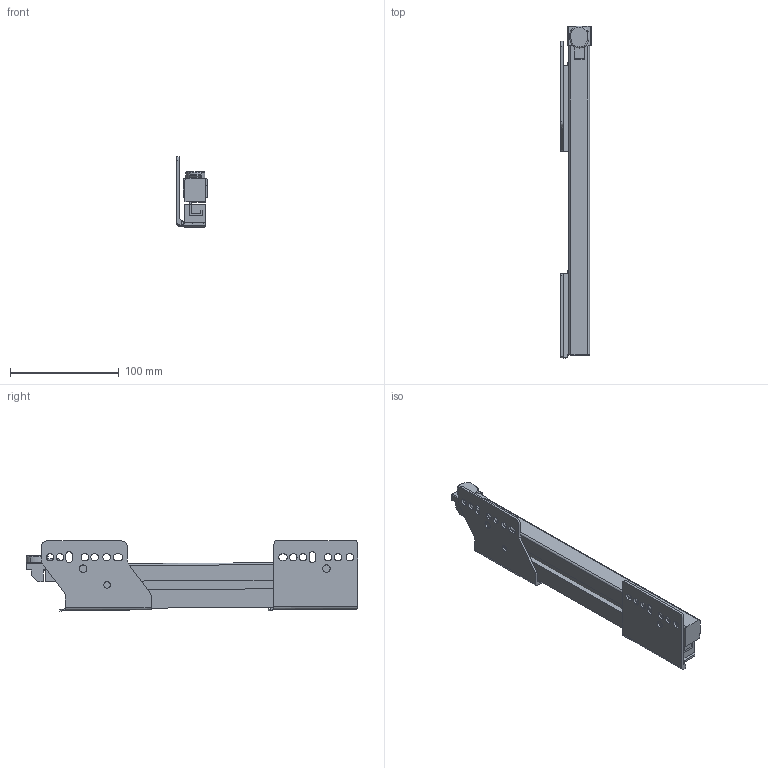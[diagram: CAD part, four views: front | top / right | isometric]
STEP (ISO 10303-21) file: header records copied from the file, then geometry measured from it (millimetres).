
FILE_DESCRIPTION (( 'STEP AP214' ), '1' );
FILE_NAME ('_IMOS_NOVA-Pro_KS_TL_EB29mm_LI_NL300.step', '2010-07-15T11:34:08', ( 'grass' ), ( '' ), 'SwSTEP 2.0', 'SolidWorks 2009', '' );
FILE_SCHEMA (( 'AUTOMOTIVE_DESIGN' ));
Length unit declared in the file: millimetre
Products named in the file (1): _IMOS_NOVA-Pro_KS_TL_EB29mm_LI_NL300
Bounding box: 27.9 x 305.61 x 64.46 mm (x, y, z)
Volume: 221637 mm3; surface area: 96845.8 mm2
Topology: 8 solids, 8 shells, 185 faces, 496 edges, 328 vertices
Faces by surface type: plane 116, cylinder 64, torus 5
Entity records: 5964 total; most frequent: CARTESIAN_POINT 1097, ORIENTED_EDGE 992, DIRECTION 972, EDGE_CURVE 496, LINE 350, VECTOR 350, VERTEX_POINT 328, AXIS2_PLACEMENT_3D 311
